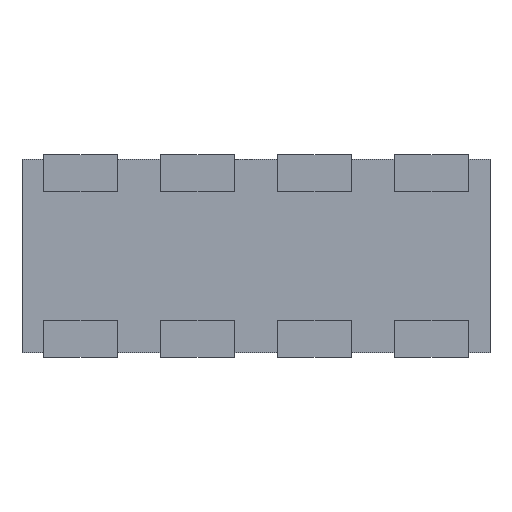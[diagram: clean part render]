
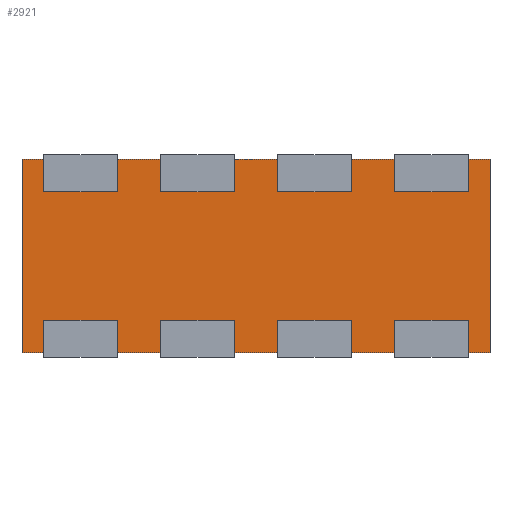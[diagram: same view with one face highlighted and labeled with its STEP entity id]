
A CAD part, front view. The second image highlights one B-rep face of the part: STEP entity #2921.
In plain terms, the highlighted planar face has unit normal (0, -1, 0).
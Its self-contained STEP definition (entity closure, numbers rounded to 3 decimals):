
#2774 = CARTESIAN_POINT ( 'NONE',  ( 2.54, 0.05, 1.05 ) ) ;
#2775 = VERTEX_POINT ( 'NONE', #2774 ) ;
#2776 = CARTESIAN_POINT ( 'NONE',  ( 2.54, 0.05, -1.05 ) ) ;
#2777 = VERTEX_POINT ( 'NONE', #2776 ) ;
#2778 = CARTESIAN_POINT ( 'NONE',  ( 2.54, 0.05, 1.05 ) ) ;
#2779 = DIRECTION ( 'NONE',  ( 0., 0., -1. ) ) ;
#2780 = VECTOR ( 'NONE', #2779, 1000. ) ;
#2781 = LINE ( 'NONE', #2778, #2780 ) ;
#2782 = EDGE_CURVE ( 'NONE', #2775, #2777, #2781, .T. ) ;
#2814 = CARTESIAN_POINT ( 'NONE',  ( -2.54, 0.05, -1.05 ) ) ;
#2815 = VERTEX_POINT ( 'NONE', #2814 ) ;
#2816 = CARTESIAN_POINT ( 'NONE',  ( -2.54, 0.05, -1.05 ) ) ;
#2817 = DIRECTION ( 'NONE',  ( -1., 0., 0. ) ) ;
#2818 = VECTOR ( 'NONE', #2817, 1000. ) ;
#2819 = LINE ( 'NONE', #2816, #2818 ) ;
#2820 = EDGE_CURVE ( 'NONE', #2777, #2815, #2819, .T. ) ;
#2845 = CARTESIAN_POINT ( 'NONE',  ( -2.54, 0.05, 1.05 ) ) ;
#2846 = VERTEX_POINT ( 'NONE', #2845 ) ;
#2847 = CARTESIAN_POINT ( 'NONE',  ( -2.54, 0.05, 1.05 ) ) ;
#2848 = DIRECTION ( 'NONE',  ( 0., 0., 1. ) ) ;
#2849 = VECTOR ( 'NONE', #2848, 1000. ) ;
#2850 = LINE ( 'NONE', #2847, #2849 ) ;
#2851 = EDGE_CURVE ( 'NONE', #2815, #2846, #2850, .T. ) ;
#2876 = CARTESIAN_POINT ( 'NONE',  ( -2.54, 0.05, 1.05 ) ) ;
#2877 = DIRECTION ( 'NONE',  ( 1., 0., 0. ) ) ;
#2878 = VECTOR ( 'NONE', #2877, 1000. ) ;
#2879 = LINE ( 'NONE', #2876, #2878 ) ;
#2880 = EDGE_CURVE ( 'NONE', #2846, #2775, #2879, .T. ) ;
#2910 = ORIENTED_EDGE ( 'NONE', *, *, #2782, .F. ) ;
#2911 = ORIENTED_EDGE ( 'NONE', *, *, #2880, .F. ) ;
#2912 = ORIENTED_EDGE ( 'NONE', *, *, #2851, .F. ) ;
#2913 = ORIENTED_EDGE ( 'NONE', *, *, #2820, .F. ) ;
#2914 = EDGE_LOOP ( 'NONE', ( #2910, #2911, #2912, #2913 ) ) ;
#2915 = FACE_OUTER_BOUND ( 'NONE', #2914, .T. ) ;
#2916 = CARTESIAN_POINT ( 'NONE',  ( 0., 0.05, 0. ) ) ;
#2917 = DIRECTION ( 'NONE',  ( 0., -1., 0. ) ) ;
#2918 = DIRECTION ( 'NONE',  ( 0., 0., -1. ) ) ;
#2919 = AXIS2_PLACEMENT_3D ( 'NONE', #2916, #2917, #2918 ) ;
#2920 = PLANE ( 'NONE', #2919 ) ;
#2921 = ADVANCED_FACE ( 'NONE', ( #2915 ), #2920, .T. ) ;
